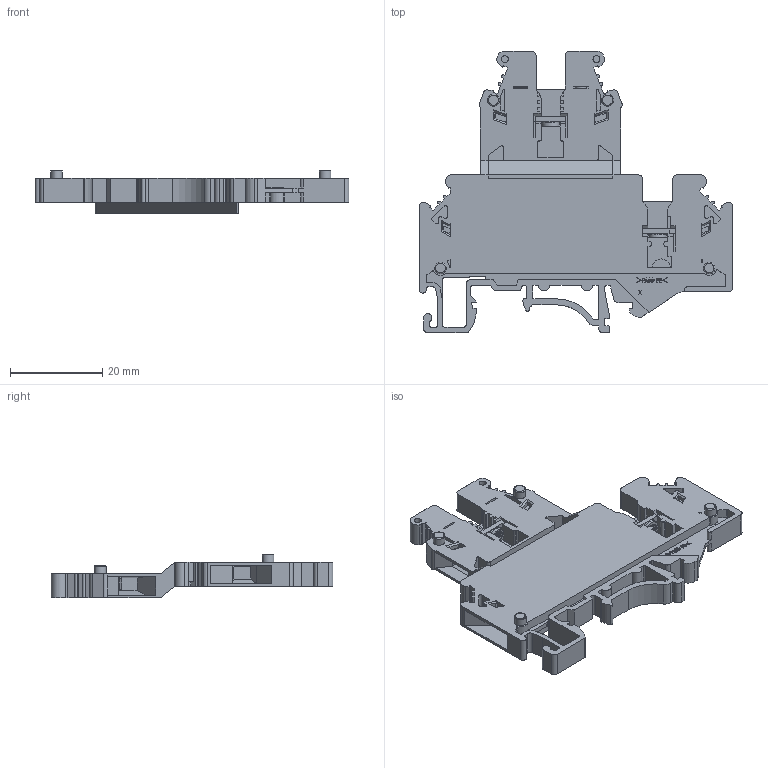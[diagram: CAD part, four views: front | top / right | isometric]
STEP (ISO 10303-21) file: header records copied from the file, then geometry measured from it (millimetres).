
FILE_DESCRIPTION(/* description */ (''),/* implementation_level */ '2;1');
FILE_NAME(/* name */ 'JUT1-2.5-2Q.stp',/* time_stamp */ '2023-06-16T15:50:25+08:00',/* author */ (''),/* organization */ (''),/* preprocessor_version */ 'ST-DEVELOPER v16.7',/* originating_system */ 'SIEMENS PLM Software NX 12.0',/* authorisation */ '');
FILE_SCHEMA (('AP203_CONFIGURATION_CONTROLLED_3D_DESIGN_OF_MECHANICAL_PARTS_AND_ASSEMBLIES_MIM_LF { 1 0 10303 403 2 1 2}'));
Products named in the file (1): Admi3DECB44Cbmoi
Bounding box: 68 x 61 x 9.5 mm (x, y, z)
Volume: 9335.2 mm3; surface area: 9783.7 mm2
Topology: 1 solids, 3 shells, 1690 faces, 4630 edges, 3069 vertices
Faces by surface type: plane 1154, cylinder 240, extrusion 235, bspline 40, torus 11, cone 10
Full cylindrical faces by diameter (mm): 1.5 x4, 2.4 x4, 2.5 x3, 2.6 x2, 2.65 x2, 2.7 x3, 3.7 x3, 3.8 x2, 3.9 x4
Entity records: 62635 total; most frequent: CARTESIAN_POINT 20475, ORIENTED_EDGE 9116, DIRECTION 7272, EDGE_CURVE 4558, VECTOR 3460, LINE 3225, VERTEX_POINT 3046, AXIS2_PLACEMENT_3D 1906
